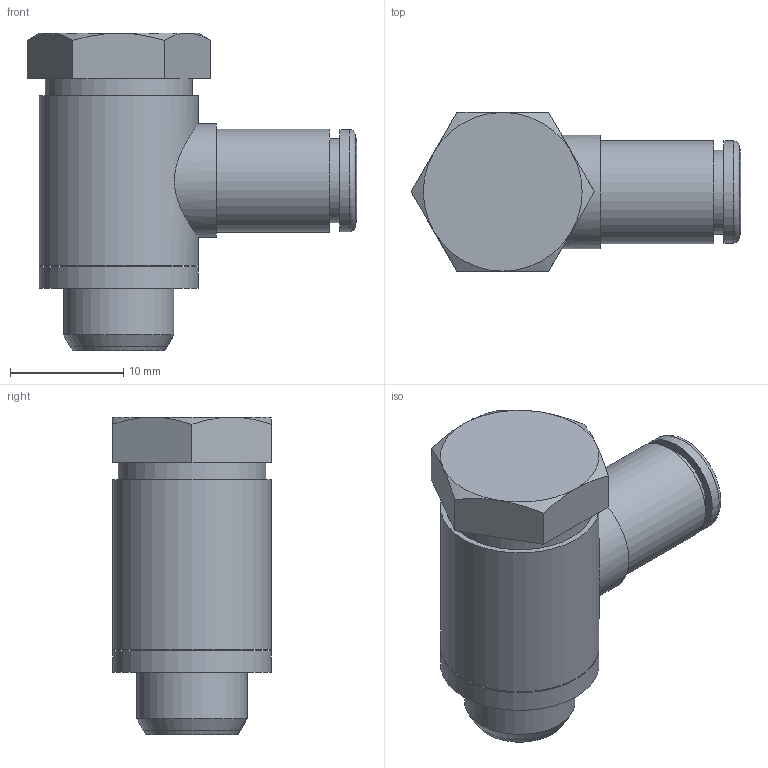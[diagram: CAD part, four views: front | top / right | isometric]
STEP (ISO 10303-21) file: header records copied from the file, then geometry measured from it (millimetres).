
FILE_DESCRIPTION(('Bauteilbeschreibung','HiCAD-Model','HiCAD-STEP-TRANSLATION','Bauteilbeschreibung'),'2;1');
FILE_NAME('B:/ABGLEICH/ZEICHNUNGEN/STEP FÜR INTERNET/STEP/IPSO 017/S11202_IPSO_017_4_1-8.STP','2011-09-29T11:22:18+00:00',('Konstrukteur'),('Konstrukteur Firma GmbH'),' HiCAD neXt 2008, Step 3.1.1401.2J ','HiCAD neXt 2008','confidential');
FILE_SCHEMA(('AUTOMOTIVE_DESIGN { 1 2 10303 214 0 1 1 1 }'));
Length unit declared in the file: millimetre
Products named in the file (8): S11202_IPSO_017_4_1_8; A00032; A4102; A41020; G 1_8; A00042_DTG__1_8_UNV ; R201202_N; DR4_1_NEU
Assembly tree (7 placements, depth 3):
  S11202_IPSO_017_4_1_8
    A00032
    A4102
    A41020
      G 1_8
    A00042_DTG__1_8_UNV 
    R201202_N
    DR4_1_NEU
Bounding box: 29.08 x 14 x 28 mm (x, y, z)
Volume: 3611.7 mm3; surface area: 4844.5 mm2
Topology: 6 solids, 6 shells, 93 faces, 197 edges, 124 vertices
Faces by surface type: plane 35, cylinder 33, cone 24, torus 1
Full cylindrical faces by diameter (mm): 3 x1, 3.5 x2, 4.1 x2, 5 x1, 6.4 x1, 7.3 x1, 7.4 x1, 7.6 x1, 7.9 x1, 8.566 x2, 9 x1, 9.1 x1, 9.7 x1, 9.728 x2, 9.9 x2, 10 x2, 10.2 x1, 10.6 x1, 13 x1, 14 x2
Entity records: 6923 total; most frequent: CARTESIAN_POINT 4342, DIRECTION 414, ORIENTED_EDGE 260, AXIS2_PLACEMENT_3D 195, EDGE_LOOP 166, COLOUR_RGB 130, EDGE_CURVE 130, PRESENTATION_STYLE_ASSIGNMENT 130
